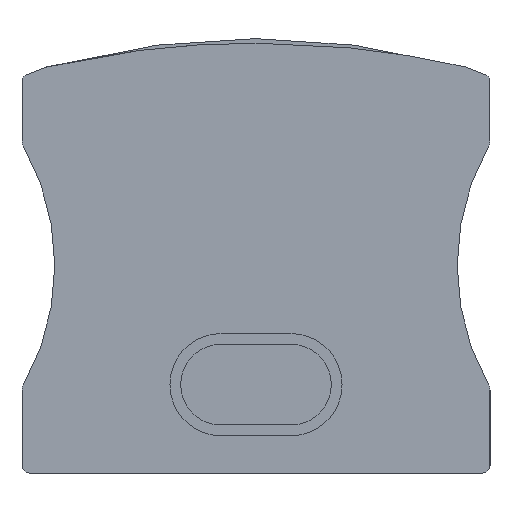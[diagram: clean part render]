
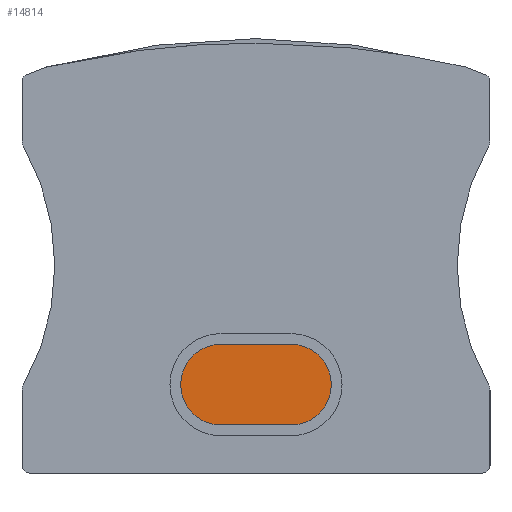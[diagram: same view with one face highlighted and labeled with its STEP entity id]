
A CAD part, left-side view. The second image highlights one B-rep face of the part: STEP entity #14814.
In plain terms, the highlighted planar face has unit normal (-1, 0, 0).
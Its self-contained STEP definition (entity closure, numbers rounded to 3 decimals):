
#371 = DIRECTION ( 'NONE',  ( 0., -1., 0. ) ) ;
#473 = CARTESIAN_POINT ( 'NONE',  ( 20.923, 330.419, 3.3 ) ) ;
#655 = DIRECTION ( 'NONE',  ( -1., 0., 0. ) ) ;
#921 = VERTEX_POINT ( 'NONE', #14430 ) ;
#966 = CARTESIAN_POINT ( 'NONE',  ( 20.923, 331.719, 7.579 ) ) ;
#2927 = EDGE_CURVE ( 'NONE', #3188, #921, #12016, .T. ) ;
#3188 = VERTEX_POINT ( 'NONE', #14998 ) ;
#3711 = EDGE_CURVE ( 'NONE', #921, #10999, #5305, .T. ) ;
#3948 = CARTESIAN_POINT ( 'NONE',  ( 20.923, 328.919, 3.3 ) ) ;
#4213 = CARTESIAN_POINT ( 'NONE',  ( 20.923, 333.019, 3.3 ) ) ;
#5305 = CIRCLE ( 'NONE', #15189, 1.5 ) ;
#5348 = DIRECTION ( 'NONE',  ( 0., -1., 0. ) ) ;
#5828 = CARTESIAN_POINT ( 'NONE',  ( 20.923, 331.719, 1.8 ) ) ;
#5898 = VERTEX_POINT ( 'NONE', #9071 ) ;
#6001 = LINE ( 'NONE', #13917, #11967 ) ;
#6462 = EDGE_CURVE ( 'NONE', #18380, #6982, #6001, .T. ) ;
#6748 = CIRCLE ( 'NONE', #13234, 1.5 ) ;
#6982 = VERTEX_POINT ( 'NONE', #13340 ) ;
#7133 = ORIENTED_EDGE ( 'NONE', *, *, #21138, .F. ) ;
#7342 = AXIS2_PLACEMENT_3D ( 'NONE', #17797, #20929, #14394 ) ;
#7618 = EDGE_CURVE ( 'NONE', #10999, #6982, #17438, .T. ) ;
#7981 = ORIENTED_EDGE ( 'NONE', *, *, #9172, .F. ) ;
#8654 = CARTESIAN_POINT ( 'NONE',  ( 20.923, 330.419, 3.3 ) ) ;
#9071 = CARTESIAN_POINT ( 'NONE',  ( 20.923, 334.519, 3.3 ) ) ;
#9172 = EDGE_CURVE ( 'NONE', #3188, #5898, #6748, .T. ) ;
#9187 = DIRECTION ( 'NONE',  ( -1., 0., 0. ) ) ;
#10461 = FACE_OUTER_BOUND ( 'NONE', #13136, .T. ) ;
#10717 = DIRECTION ( 'NONE',  ( 0., 1., 0. ) ) ;
#10781 = VECTOR ( 'NONE', #20594, 1000. ) ;
#10999 = VERTEX_POINT ( 'NONE', #3948 ) ;
#11967 = VECTOR ( 'NONE', #18921, 1000. ) ;
#12016 = LINE ( 'NONE', #5828, #10781 ) ;
#12472 = ORIENTED_EDGE ( 'NONE', *, *, #3711, .T. ) ;
#12499 = PLANE ( 'NONE',  #19382 ) ;
#13136 = EDGE_LOOP ( 'NONE', ( #19447, #7133, #7981, #16451, #12472, #21042 ) ) ;
#13234 = AXIS2_PLACEMENT_3D ( 'NONE', #4213, #18853, #10717 ) ;
#13340 = CARTESIAN_POINT ( 'NONE',  ( 20.923, 330.419, 4.8 ) ) ;
#13917 = CARTESIAN_POINT ( 'NONE',  ( 20.923, 331.719, 4.8 ) ) ;
#14272 = CARTESIAN_POINT ( 'NONE',  ( 20.923, 333.019, 4.8 ) ) ;
#14394 = DIRECTION ( 'NONE',  ( 0., 1., 0. ) ) ;
#14430 = CARTESIAN_POINT ( 'NONE',  ( 20.923, 330.419, 1.8 ) ) ;
#14814 = ADVANCED_FACE ( 'NONE', ( #10461 ), #12499, .T. ) ;
#14998 = CARTESIAN_POINT ( 'NONE',  ( 20.923, 333.019, 1.8 ) ) ;
#15189 = AXIS2_PLACEMENT_3D ( 'NONE', #8654, #655, #5348 ) ;
#15490 = DIRECTION ( 'NONE',  ( 0., 1., 0. ) ) ;
#16451 = ORIENTED_EDGE ( 'NONE', *, *, #2927, .T. ) ;
#16695 = DIRECTION ( 'NONE',  ( -1., 0., 0. ) ) ;
#17198 = CIRCLE ( 'NONE', #7342, 1.5 ) ;
#17438 = CIRCLE ( 'NONE', #20534, 1.5 ) ;
#17797 = CARTESIAN_POINT ( 'NONE',  ( 20.923, 333.019, 3.3 ) ) ;
#18380 = VERTEX_POINT ( 'NONE', #14272 ) ;
#18853 = DIRECTION ( 'NONE',  ( 1., 0., 0. ) ) ;
#18921 = DIRECTION ( 'NONE',  ( 0., -1., 0. ) ) ;
#19382 = AXIS2_PLACEMENT_3D ( 'NONE', #966, #9187, #15490 ) ;
#19447 = ORIENTED_EDGE ( 'NONE', *, *, #6462, .F. ) ;
#20534 = AXIS2_PLACEMENT_3D ( 'NONE', #473, #16695, #371 ) ;
#20594 = DIRECTION ( 'NONE',  ( 0., -1., 0. ) ) ;
#20929 = DIRECTION ( 'NONE',  ( 1., 0., 0. ) ) ;
#21042 = ORIENTED_EDGE ( 'NONE', *, *, #7618, .T. ) ;
#21138 = EDGE_CURVE ( 'NONE', #5898, #18380, #17198, .T. ) ;
